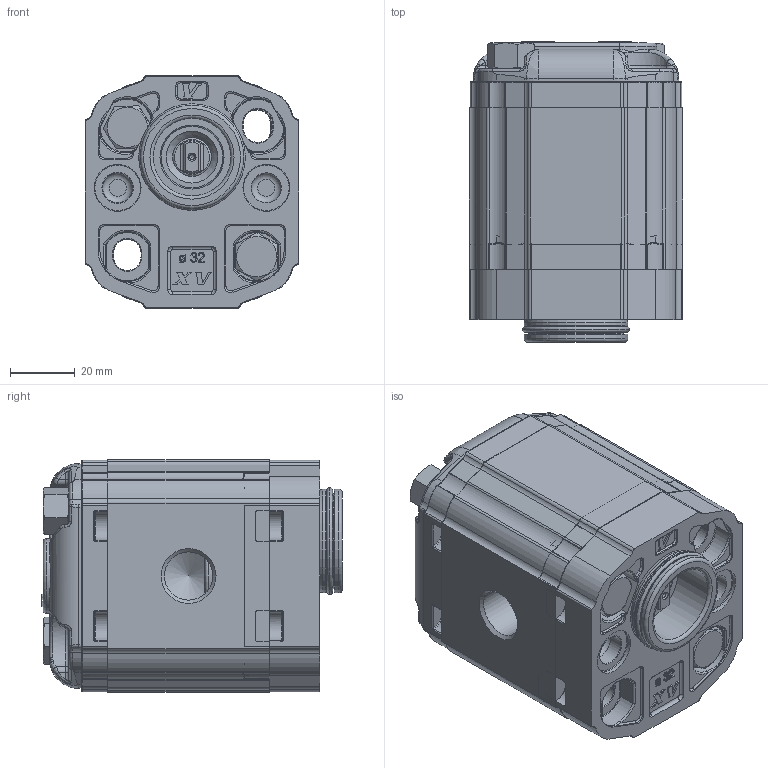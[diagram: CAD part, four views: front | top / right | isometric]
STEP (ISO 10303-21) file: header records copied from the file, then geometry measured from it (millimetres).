
FILE_DESCRIPTION( ( 'Unknown' ), '1' );
FILE_NAME( 'P:/montaggio_easy/output/STP/X1U2331CBBA.stp', 'Unknown', ( 'Unknown' ), ( 'Unknown' ), 'PSStep 14.0', 'Unknown', ' ' );
FILE_SCHEMA( ( 'AUTOMOTIVE_DESIGN { 1 0 10303 214 1 1 1 1 }' ) );
Length unit declared in the file: millimetre
Products named in the file (5): Assem1; X1U31; 1C; X1BBH50; XU161-A
Bounding box: 66 x 92.9 x 72 mm (x, y, z)
Surface area: 127933.3 mm2
Topology: 8 solids, 10 shells, 3640 faces, 9232 edges, 5848 vertices
Faces by surface type: plane 1622, cylinder 974, torus 386, extrusion 296, bspline 256, cone 98, sphere 8
Full cylindrical faces by diameter (mm): 1.5 x2, 3 x8, 8 x8, 8.5 x6, 9 x4, 9.3 x4, 10.5 x4, 11.965 x2, 12 x2, 14.5 x4, 14.95 x4, 15.941 x2, 17.99 x2, 19.02 x4, 24 x2, 29.4 x4, 32 x4, 32.96 x2
Entity records: 77055 total; most frequent: CARTESIAN_POINT 19596, ORIENTED_EDGE 8948, DIRECTION 8632, EDGE_CURVE 4474, AXIS2_PLACEMENT_3D 2998, VERTEX_POINT 2887, VECTOR 2636, LINE 2488
